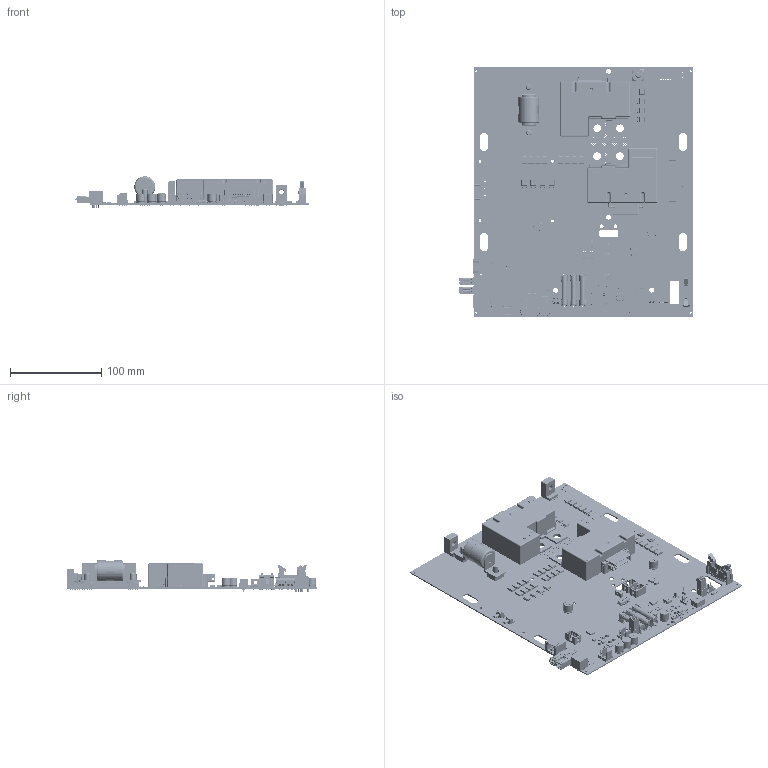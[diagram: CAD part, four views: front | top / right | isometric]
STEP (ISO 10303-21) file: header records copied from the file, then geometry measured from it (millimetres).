
FILE_DESCRIPTION(('KiCad electronic assembly'),'2;1');
FILE_NAME('PowerPro.step','2026-01-24T20:00:52',('Pcbnew'),('Kicad'), 'Open CASCADE STEP processor 7.9','KiCad to STEP converter','Unknown' );
FILE_SCHEMA(('AUTOMOTIVE_DESIGN { 1 0 10303 214 1 1 1 1 }'));
Length unit declared in the file: millimetre
Products named in the file (63): PowerPro 1; SO-4_4.4x4.3mm_P2.54mm; D_SMC; R_0603_1608Metric; FanPinHeader_1x04_P2.54mm_Vertical; C_0603_1608Metric; C_1210_3225Metric; IDC-Header_2x03_P2.54mm_Vertical; SW_SPST_Omron_B3FS-100xP; LED_0603_1608Metric; HSOP-8-1EP_3.9x4.9mm_P1.27mm_EP2.41x3.1mm; SOT-23; PhoenixContact_MCV_1,5_2-G-3.5_1x02_P3.50mm_Vertical; PhoenixContact_MC_1,5_2-G-3.5_1x02_P3.50mm_Horizontal; Molex_KK-254_AE-6410-04A_1x04_P2.54mm_Vertical; 61201022021; 10; 6120xx22x21_LEVIER_COURT; 6120xx21621_PIN; SW_DIP_SPSTx05_Slide_6.7x14.26mm_W7.62mm_P2.54mm_LowProfile; Download_STEP_691304100002 (rev1); 691304100002; 691304100002_Bas; 6913041000xx_Levier; 6913041000xx_Pin; 6913041000xx_Lamelle; TO-252-2; PowerPro 1.41.1; CP_Radial_D10.0mm_P5.00mm; 7461098; Download_STP_WE-LQFS-4818 (rev1); 4818_74406042_Housing; 4818_74406042; 4818_74406042_Pads; Glue L; Glue R; User Library-Clips LF-102071 with fuse 6_3x32; LF 102071; 6,3x32; 852B-R1A-D012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
Assembly tree (253 placements, depth 3):
  PowerPro 1
    SO-4_4.4x4.3mm_P2.54mm  x2
    D_SMC  x33
    R_0603_1608Metric  x53
    FanPinHeader_1x04_P2.54mm_Vertical
    C_0603_1608Metric  x21
    C_1210_3225Metric  x14
    IDC-Header_2x03_P2.54mm_Vertical  x3
    SW_SPST_Omron_B3FS-100xP  x3
    LED_0603_1608Metric  x4
    HSOP-8-1EP_3.9x4.9mm_P1.27mm_EP2.41x3.1mm
    SOT-23  x14
    PhoenixContact_MCV_1,5_2-G-3.5_1x02_P3.50mm_Vertical  x2
    PhoenixContact_MC_1,5_2-G-3.5_1x02_P3.50mm_Horizontal  x2
    Molex_KK-254_AE-6410-04A_1x04_P2.54mm_Vertical  x4
    61201022021
      10
      6120xx22x21_LEVIER_COURT  x2
      6120xx21621_PIN  x10
    SW_DIP_SPSTx05_Slide_6.7x14.26mm_W7.62mm_P2.54mm_LowProfile
    Download_STEP_691304100002 (rev1)  x4
      691304100002
      691304100002_Bas
      6913041000xx_Levier
      6913041000xx_Pin
      6913041000xx_Lamelle
    TO-252-2  x8
      PowerPro 1.41.1
    CP_Radial_D10.0mm_P5.00mm  x6
    7461098  x3
    Download_STP_WE-LQFS-4818 (rev1)
      4818_74406042_Housing
      4818_74406042
      4818_74406042
      4818_74406042_Pads  x2
      Glue L
      Glue R
    User Library-Clips LF-102071 with fuse 6_3x32  x3
      LF 102071
      6,3x32
    852B-R1A-D012  x2
    LQFP-32_7x7mm_P0.8mm
    ws-sltv_450301014042 (rev1)
      cover
      slide
    74622106  x2
    MD-60SGK
      Body
      Leads  x9
    SW_Tactile_SPST_Angled_PTS645Vx83-2LFS  x2
    PinHeader_1x02_P2.54mm_Vertical
    RJ45_Amphenol_RJHSE538X
    Nexperia_CFP3_SOD-123W  x3
      PowerPro 1.125.1
    PinHeader_2x05_P1.27mm_Vertical_SMD
    D_SMB
    PinHeader_1x04_P2.54mm_Vertical
    SOIC-8_5.3x5.3mm_P1.27mm
    AB1xxxx100
    CMI-1265-88-SMT-TR
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Bounding box: 256.45 x 275.04 x 34.5 mm (x, y, z)
Volume: 227975.5 mm3; surface area: 320440.6 mm2
Topology: 453 solids, 462 shells, 36292 faces, 90718 edges, 54659 vertices
Faces by surface type: plane 16726, cylinder 11690, bspline 4365, torus 1775, sphere 1392, cone 250, revolution 68, extrusion 26
Full cylindrical faces by diameter (mm): 0.1 x14, 0.3 x6, 0.5 x1038, 0.6 x3, 0.7 x66, 0.8 x21, 0.89 x12, 0.99 x4, 1 x85, 1.02 x4, 1.1 x7, 1.19 x16, 1.2 x21, 1.3 x4, 1.4 x2, 1.45 x125, 1.57 x2, 1.9 x1, 1.98 x12, 2.109 x27, 2.2 x4, 2.5 x16, 3 x3, 3.14 x2, 3.2 x7, 3.25 x4, 3.3 x1, 3.5 x2, 4 x2, 4.917 x2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
Entity records: 587722 total; most frequent: CARTESIAN_POINT 125557, ORIENTED_EDGE 76471, DIRECTION 74633, EDGE_CURVE 38231, AXIS2_PLACEMENT_3D 26068, VERTEX_POINT 23512, VECTOR 22471, LINE 22445
